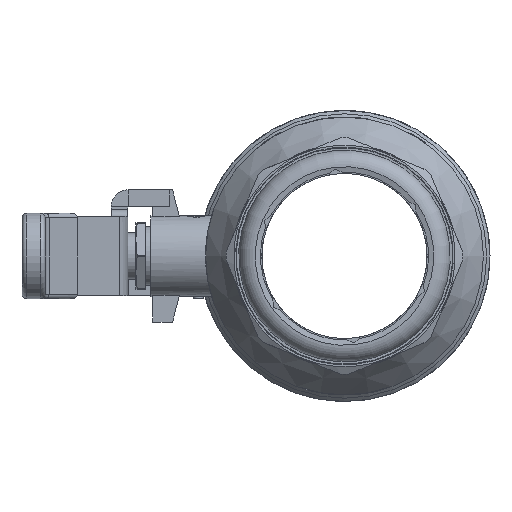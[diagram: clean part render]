
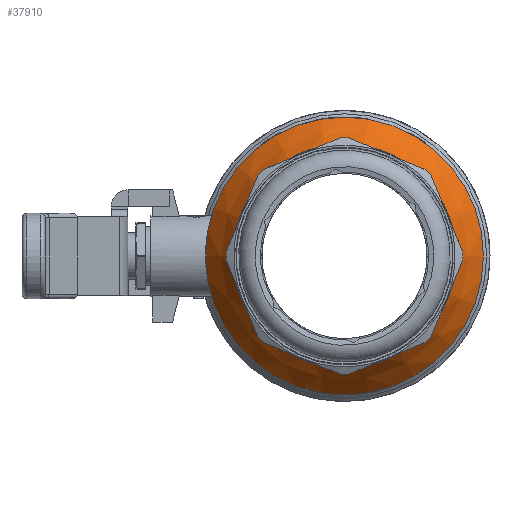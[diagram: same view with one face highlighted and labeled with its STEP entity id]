
A CAD part, left-side view. The second image highlights one B-rep face of the part: STEP entity #37910.
In plain terms, the highlighted conical face has half-angle 35 degrees and reference radius 41.1 mm.
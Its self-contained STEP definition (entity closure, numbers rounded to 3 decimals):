
#37879=CARTESIAN_POINT('',(-27.5,33.0,0.0));
#37880=VERTEX_POINT('',#37879);
#37881=CARTESIAN_POINT('',(-27.5,0.0,0.));
#37882=DIRECTION('',(1.0,0.0,0.0));
#37883=DIRECTION('',(0.0,1.0,0.0));
#37884=AXIS2_PLACEMENT_3D('',#37881,#37882,#37883);
#37885=CIRCLE('',#37884,33.0);
#37886=EDGE_CURVE('',#37880,#37880,#37885,.T.);
#37891=CARTESIAN_POINT('',(-15.932,0.0,0.));
#37892=DIRECTION('',(1.0,0.,0.));
#37893=DIRECTION('',(0.0,0.0,-1.0));
#37894=AXIS2_PLACEMENT_3D('',#37891,#37892,#37893);
#37895=CONICAL_SURFACE('',#37894,41.1,35.);
#37896=ORIENTED_EDGE('',*,*,#37886,.T.);
#37897=EDGE_LOOP('',(#37896));
#37898=FACE_OUTER_BOUND('',#37897,.T.);
#37899=CARTESIAN_POINT('',(-14.647,42.0,0.0));
#37900=VERTEX_POINT('',#37899);
#37901=CARTESIAN_POINT('',(-14.647,0.,0.));
#37902=DIRECTION('',(1.0,0.0,0.0));
#37903=DIRECTION('',(0.0,1.0,0.0));
#37904=AXIS2_PLACEMENT_3D('',#37901,#37902,#37903);
#37905=CIRCLE('',#37904,42.0);
#37906=EDGE_CURVE('',#37900,#37900,#37905,.T.);
#37907=ORIENTED_EDGE('',*,*,#37906,.F.);
#37908=EDGE_LOOP('',(#37907));
#37909=FACE_BOUND('',#37908,.T.);
#37910=ADVANCED_FACE('',(#37898,#37909),#37895,.T.);
